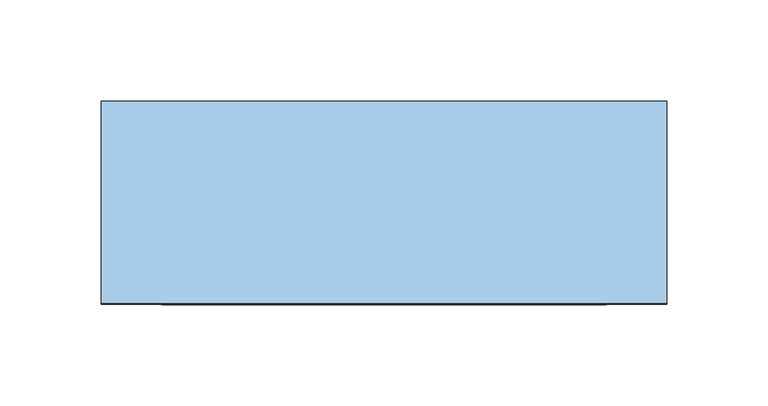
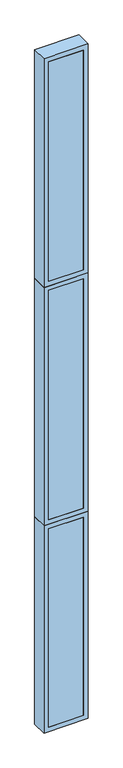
"""IFC4 building model written with IfcOpenShell, lengths in millimetres: window geometry, TRP_CP_ARC_FI_V1 : AL_P03_28."""

from ifc_helpers import new_model, si_unit, frame, origin, place, context, project, spatial, polyline, outline, extrude, source, transform, mapped, element, save


def window_19409f7d(model_context):
    return source(origin(), model_context, "Body", "SweptSolid", [
        extrude(outline(polyline([(110.0, -50.0), (-110.0, -50.0), (-110.0, -30.0), (110.0, -30.0), (110.0, -50.0)])), frame((0.0, 0.0, 30.0), z_axis=(0.0, 0.0, 1.0), x_axis=(1.0, 0.0, 0.0)), (0.0, 0.0, 1.0), 1323.0),
        extrude(outline(polyline([(1383.0, 140.0), (1383.0, -140.0), (0.0, -140.0), (0.0, 140.0), (1383.0, 140.0)]), holes=[polyline([(30.0, 110.0), (30.0, -110.0), (1353.0, -110.0), (1353.0, 110.0), (30.0, 110.0)])]), frame((0.0, -50.0, 0.0), z_axis=(0.0, 1.0, 0.0), x_axis=(0.0, 0.0, 1.0)), (0.0, 0.0, 1.0), 100.0),
        extrude(outline(polyline([(2973.0, 140.0), (2973.0, -140.0), (1383.0, -140.0), (1383.0, 140.0), (2973.0, 140.0)]), holes=[polyline([(1413.0, 110.0), (1413.0, -110.0), (2943.0, -110.0), (2943.0, 110.0), (1413.0, 110.0)])]), frame((0.0, -50.0, 0.0), z_axis=(0.0, 1.0, 0.0), x_axis=(0.0, 0.0, 1.0)), (0.0, 0.0, 1.0), 100.0),
        extrude(outline(polyline([(110.0, -50.0), (-110.0, -50.0), (-110.0, -30.0), (110.0, -30.0), (110.0, -50.0)])), frame((0.0, 0.0, 1413.0), z_axis=(0.0, 0.0, 1.0), x_axis=(1.0, 0.0, 0.0)), (0.0, 0.0, 1.0), 1530.0),
        extrude(outline(polyline([(4500.0, 140.0), (4500.0, -140.0), (2973.0, -140.0), (2973.0, 140.0), (4500.0, 140.0)]), holes=[polyline([(3003.0, 110.0), (3003.0, -110.0), (4470.0, -110.0), (4470.0, 110.0), (3003.0, 110.0)])]), frame((0.0, -50.0, 0.0), z_axis=(0.0, 1.0, 0.0), x_axis=(0.0, 0.0, 1.0)), (0.0, 0.0, 1.0), 100.0),
        extrude(outline(polyline([(110.0, -50.0), (-110.0, -50.0), (-110.0, -30.0), (110.0, -30.0), (110.0, -50.0)])), frame((0.0, 0.0, 3003.0), z_axis=(0.0, 0.0, 1.0), x_axis=(1.0, 0.0, 0.0)), (0.0, 0.0, 1.0), 1467.0),
    ])


if __name__ == "__main__":
    model = new_model("IFC4")
    model_context = context("Model", 3, world=origin())
    ifc_project = project(units=[si_unit("LENGTHUNIT", "METRE", prefix="MILLI")], contexts=[model_context])
    site = spatial("IfcSite", under=ifc_project)
    building = spatial("IfcBuilding", under=site)
    placement = place(None, origin())
    window_shape = window_19409f7d(model_context)
    element("IfcWindow", 1, ObjectType="TRP_CP_ARC_FI_V1 : AL_P03_28", at=placement, inside=building, context=model_context, shape_type="MappedRepresentation", body=[
        mapped(window_shape, transform((0.0, 0.0, 0.0), x_axis=(1.0, 0.0, 0.0), y_axis=(0.0, 1.0, 0.0), z_axis=(0.0, 0.0, 1.0))),
    ])
    save(model, "model.ifc")
